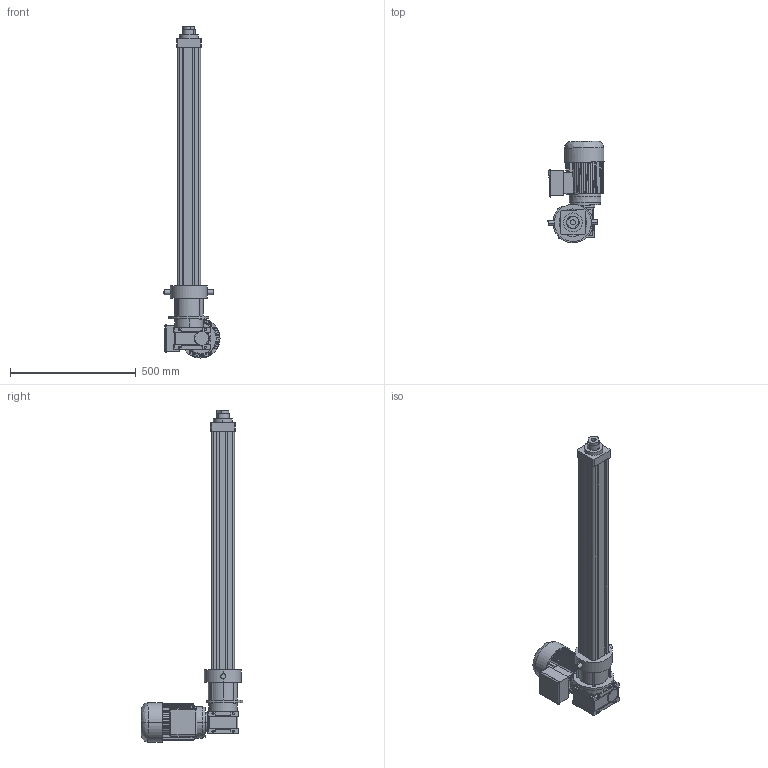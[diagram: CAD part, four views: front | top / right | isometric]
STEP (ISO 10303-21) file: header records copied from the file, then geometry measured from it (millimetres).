
FILE_DESCRIPTION (( 'STEP AP214' ), '1' );
FILE_NAME ('Ass RV80 BI C800.STEP', '2017-01-03T16:21:41', ( 'Hubert' ), ( '' ), 'SwSTEP 2.0', 'SolidWorks 2014', '' );
FILE_SCHEMA (( 'AUTOMOTIVE_DESIGN' ));
Length unit declared in the file: millimetre
Products named in the file (9): PAAV 80 D; Profilé MRRV80 BI C800; Vis MRRV80 BI C800; PAAR RV 80 B160; Ass RV80 BI C800; Ass CHM50_FC MOT 80 F; _AT_80_B_2_1,10_B14_F_230-400-50_DC-S.3d; _CHM_50_FC_2_7,5_80_B14_B3.3d; Tube MR 80 BI C800
Assembly tree (8 placements, depth 3):
  Ass RV80 BI C800
    PAAR RV 80 B160
    Vis MRRV80 BI C800
    Profilé MRRV80 BI C800
    PAAV 80 D
    Tube MR 80 BI C800
    Ass CHM50_FC MOT 80 F
      _CHM_50_FC_2_7,5_80_B14_B3.3d
      _AT_80_B_2_1,10_B14_F_230-400-50_DC-S.3d
Bounding box: 223.05 x 405.67 x 1322 mm (x, y, z)
Volume: 10835506.8 mm3; surface area: 1875199.7 mm2
Topology: 7 solids, 11 shells, 833 faces, 2164 edges, 1391 vertices
Faces by surface type: plane 422, cylinder 382, cone 22, bspline 7
Entity records: 34432 total; most frequent: CARTESIAN_POINT 4908, DIRECTION 4660, ORIENTED_EDGE 4288, EDGE_CURVE 2144, AXIS2_PLACEMENT_3D 1689, VERTEX_POINT 1391, LINE 1282, VECTOR 1282
